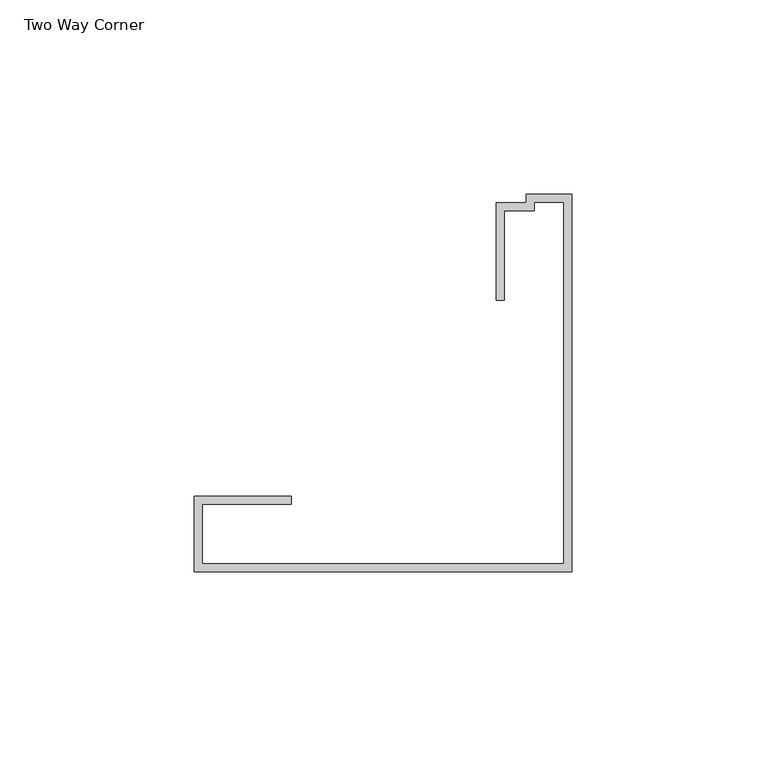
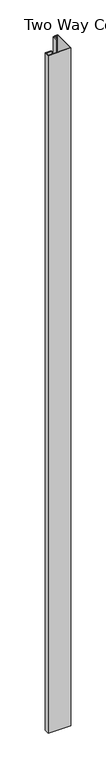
"""IFC4 building model written with IfcOpenShell, lengths in millimetres: proxy geometry, Connection-Corner-Teknion-Optos-12mm_Clerestory_Two_Way_Connection_W/Altoa-FXCCA2 : Two Way Corner."""

import ifcopenshell
import ifcopenshell.guid

model = None  # the IFC model being written
_history = None  # IfcOwnerHistory: only IFC2X3 demands one
_inside = {}  # id of a spatial element -> (the spatial element, [elements in it])
_under = {}  # id of a project, library or spatial element -> (it, [spatial elements below it])
_declared = {}  # id of a project -> (the project, [libraries it declares])
_typed = {}  # id of a type object -> (the type object, [elements of that type])
_made_of = {}  # id of a material, layer set ... -> (it, [elements and type objects made of it])


def new_model(schema):
    """Start an empty IFC model of exactly this schema.

    Asked for "IFC4X3", IfcOpenShell would pick the latest addendum, in which some entities
    have other attributes; the version numbers below select the first issue.
    IFC2X3 requires an IfcOwnerHistory on every rooted entity: one is made here for all.
    """
    global model, _history
    if schema == "IFC4X3":
        model = ifcopenshell.file(schema_version=(4, 3, 0, 0))
    else:
        model = ifcopenshell.file(schema=schema)
    _inside.clear()
    _under.clear()
    _declared.clear()
    _typed.clear()
    _made_of.clear()
    _history = None
    if model.schema == "IFC2X3":
        org = make("IfcOrganization", Name="unknown")
        user = make(
            "IfcPersonAndOrganization",
            ThePerson=make("IfcPerson", FamilyName="unknown"),
            TheOrganization=org,
        )
        app = make(
            "IfcApplication",
            ApplicationDeveloper=org,
            Version="unknown",
            ApplicationFullName="unknown",
            ApplicationIdentifier="unknown",
        )
        _history = make(
            "IfcOwnerHistory",
            OwningUser=user,
            OwningApplication=app,
            ChangeAction="ADDED",
            CreationDate=0,
        )
    return model


def make(cls, **values):
    """One entity of the class cls with the attributes given. An attribute that is None is left unset."""
    return model.create_entity(
        cls, **{name: value for name, value in values.items() if value is not None}
    )


def rooted(cls, **values):
    """An entity with a GlobalId (a new one), such as an element, a storey or a relation."""
    return make(cls, GlobalId=ifcopenshell.guid.new(), OwnerHistory=_history, **values)


def si_unit(unit_type, name, prefix=None):
    """IfcSIUnit, for example si_unit("LENGTHUNIT", "METRE", prefix="MILLI")."""
    return make("IfcSIUnit", UnitType=unit_type, Prefix=prefix, Name=name)


def assignment(units):
    """IfcUnitAssignment: the units of a project."""
    return None if units is None else make("IfcUnitAssignment", Units=units)


def point(xyz):
    """IfcCartesianPoint."""
    return None if xyz is None else make("IfcCartesianPoint", Coordinates=xyz)


def direction(xyz):
    """IfcDirection."""
    return None if xyz is None else make("IfcDirection", DirectionRatios=xyz)


def frame(location, z_axis=None, x_axis=None):
    """IfcAxis2Placement3D, a coordinate frame: its origin and axes. An axis left out is left unset."""
    return make(
        "IfcAxis2Placement3D",
        Location=point(location),
        Axis=direction(z_axis),
        RefDirection=direction(x_axis),
    )


def origin():
    """The frame at (0, 0, 0) with its axes left unset."""
    return frame((0.0, 0.0, 0.0))


def origin_with_axes():
    """The frame at (0, 0, 0) with the z axis (0, 0, 1) and the x axis (1, 0, 0) written out."""
    return frame((0.0, 0.0, 0.0), z_axis=(0.0, 0.0, 1.0), x_axis=(1.0, 0.0, 0.0))


def place(relative_to, where):
    """IfcLocalPlacement: puts the frame where relative to a parent placement (None: the world)."""
    return make(
        "IfcLocalPlacement", PlacementRelTo=relative_to, RelativePlacement=where
    )


def context(
    kind, dimensions, precision=None, world=None, true_north=None, identifier=None
):
    """IfcGeometricRepresentationContext, for example the 3D "Model" context."""
    return make(
        "IfcGeometricRepresentationContext",
        ContextIdentifier=identifier,
        ContextType=kind,
        CoordinateSpaceDimension=dimensions,
        Precision=precision,
        WorldCoordinateSystem=world,
        TrueNorth=true_north,
    )


def project(units=None, contexts=None):
    """IfcProject with its units and contexts."""
    return rooted(
        "IfcProject",
        Name="project",
        RepresentationContexts=contexts,
        UnitsInContext=assignment(units),
    )


def spatial(cls, under=None, at=None, **own):
    """A site, building, storey or space (cls), placed at a placement, below another one or the project."""
    s = rooted(cls, ObjectPlacement=at, **own)
    if under is not None:
        _under.setdefault(under.id(), (under, []))[1].append(s)
    return s


def polyline(points):
    """IfcPolyline through the points."""
    return make("IfcPolyline", Points=[point(p) for p in points])


def outline(outer, holes=None, kind="AREA"):
    """IfcArbitraryClosedProfileDef: a profile drawn as a closed curve; with holes, ...WithVoids."""
    if holes is None:
        return make("IfcArbitraryClosedProfileDef", ProfileType=kind, OuterCurve=outer)
    return make(
        "IfcArbitraryProfileDefWithVoids",
        ProfileType=kind,
        OuterCurve=outer,
        InnerCurves=holes,
    )


def extrude(swept, where, along, depth):
    """IfcExtrudedAreaSolid: the profile swept, set in the frame where, extruded along a direction by depth."""
    return make(
        "IfcExtrudedAreaSolid",
        SweptArea=swept,
        Position=where,
        ExtrudedDirection=direction(along),
        Depth=depth,
    )


def shape(context_of_items, identifier, shape_type, items):
    """IfcShapeRepresentation: the items that make up one representation, for example the "Body"."""
    return make(
        "IfcShapeRepresentation",
        ContextOfItems=context_of_items,
        RepresentationIdentifier=identifier,
        RepresentationType=shape_type,
        Items=items,
    )


def source(mapping_origin, context_of_items, identifier, shape_type, items):
    """IfcRepresentationMap: a shape defined once, which mapped items show again and again."""
    return make(
        "IfcRepresentationMap",
        MappingOrigin=mapping_origin,
        MappedRepresentation=shape(context_of_items, identifier, shape_type, items),
    )


def transform(
    local_origin,
    x_axis=None,
    y_axis=None,
    z_axis=None,
    scale=None,
    scale2=None,
    scale3=None,
    uniform=True,
):
    """IfcCartesianTransformationOperator3D, or its non-uniform kind. x_axis, y_axis, z_axis: its Axis1, 2, 3."""
    if uniform:
        return make(
            "IfcCartesianTransformationOperator3D",
            Axis1=direction(x_axis),
            Axis2=direction(y_axis),
            LocalOrigin=point(local_origin),
            Scale=scale,
            Axis3=direction(z_axis),
        )
    return make(
        "IfcCartesianTransformationOperator3DnonUniform",
        Axis1=direction(x_axis),
        Axis2=direction(y_axis),
        LocalOrigin=point(local_origin),
        Scale=scale,
        Axis3=direction(z_axis),
        Scale2=scale2,
        Scale3=scale3,
    )


def mapped(mapping_source, mapping_target):
    """IfcMappedItem: shows the shape of a source again, moved by a transform."""
    return make(
        "IfcMappedItem", MappingSource=mapping_source, MappingTarget=mapping_target
    )


def made_of(thing, what):
    """Note that an element or type object is made of a material, layer set ...; save() writes the relation."""
    if what is not None:
        _made_of.setdefault(what.id(), (what, []))[1].append(thing)
    return thing


def element(
    cls,
    number,
    at=None,
    inside=None,
    cuts=None,
    type_object=None,
    material=None,
    context=None,
    identifier="Body",
    shape_type=None,
    held_by="IfcProductDefinitionShape",
    body=None,
    shapes=None,
    **own,
):
    """One element of the class cls, such as IfcWall. Its Tag is "e" and its number.

    at: its placement. inside: the storey or other place that contains it. cuts: it is an
    opening in that element (IfcRelVoidsElement). A single representation is given by context,
    identifier, shape_type and body (its items); several are given by shapes. held_by: the class
    of the entity that holds the representations. save() writes the other relations.
    """
    e = rooted(cls, Tag="e%d" % number, ObjectPlacement=at, **own)
    if body is not None:
        shapes = [shape(context, identifier, shape_type, body)]
    if shapes is not None:
        e.Representation = make(held_by, Representations=shapes)
    if inside is not None:
        _inside.setdefault(inside.id(), (inside, []))[1].append(e)
    if cuts is not None:
        rooted(
            "IfcRelVoidsElement", RelatingBuildingElement=cuts, RelatedOpeningElement=e
        )
    if type_object is not None:
        _typed.setdefault(type_object.id(), (type_object, []))[1].append(e)
    return made_of(e, material)


def aggregate(whole, parts):
    """IfcRelAggregates: a whole, such as a stair, and the parts it consists of."""
    return rooted("IfcRelAggregates", RelatingObject=whole, RelatedObjects=parts)


def save(model, path):
    """Write the relations noted so far, then the file.

    IfcRelAggregates (storeys below a building ...), IfcRelContainedInSpatialStructure (elements
    in a storey), IfcRelDefinesByType, IfcRelAssociatesMaterial and IfcRelDeclares: one each for
    every whole, place, type object, material and project.
    """
    for whole, parts in _under.values():
        aggregate(whole, parts)
    for where, things in _inside.values():
        rooted(
            "IfcRelContainedInSpatialStructure",
            RelatedElements=things,
            RelatingStructure=where,
        )
    for kind, things in _typed.values():
        rooted("IfcRelDefinesByType", RelatedObjects=things, RelatingType=kind)
    for what, things in _made_of.values():
        rooted("IfcRelAssociatesMaterial", RelatedObjects=things, RelatingMaterial=what)
    for by, libraries in _declared.values():
        rooted("IfcRelDeclares", RelatingContext=by, RelatedDefinitions=libraries)
    model.write(path)


def two_way_corner_91326013(model_context):
    return source(origin(), model_context, "Body", "SweptSolid", [
        extrude(outline(polyline([(48.5013, 48.5013), (48.5013, -48.5013), (-48.5013, -48.5013), (-48.5013, -29.1973), (-23.5331, -29.1973), (-23.5331, -31.2293), (-46.4693, -31.2293), (-46.4693, -46.4693), (46.4693, -46.4693), (46.4693, 46.4693), (38.8493, 46.4693), (38.8493, 44.2595), (31.2293, 44.2595), (31.2293, 21.3233), (29.1973, 21.3233), (29.1973, 46.2915), (36.83375, 46.2915), (36.83375, 48.5013), (48.5013, 48.5013)])), origin_with_axes(), (0.0, 0.0, 1.0), 3048.0),
    ])


if __name__ == "__main__":
    model = new_model("IFC4")
    model_context = context("Model", 3, world=origin())
    ifc_project = project(units=[si_unit("LENGTHUNIT", "METRE", prefix="MILLI")], contexts=[model_context])
    site = spatial("IfcSite", under=ifc_project)
    building = spatial("IfcBuilding", under=site)
    placement = place(None, origin())
    two_way_corner_shape = two_way_corner_91326013(model_context)
    element("IfcBuildingElementProxy", 1, Name="Connection-Corner-Teknion-Optos-12mm_Clerestory_Two_Way_Connection_W/Altoa-FXCCA2 : Two Way Corner", ObjectType="Connection-Corner-Teknion-Optos-12mm_Clerestory_Two_Way_Connection_W/Altoa-FXCCA2 : Two Way Corner", at=placement, inside=building, context=model_context, shape_type="MappedRepresentation", body=[
        mapped(two_way_corner_shape, transform((0.0, 0.0, 0.0), x_axis=(1.0, 0.0, 0.0), y_axis=(0.0, 1.0, 0.0), z_axis=(0.0, 0.0, 1.0))),
    ])
    save(model, "model.ifc")
